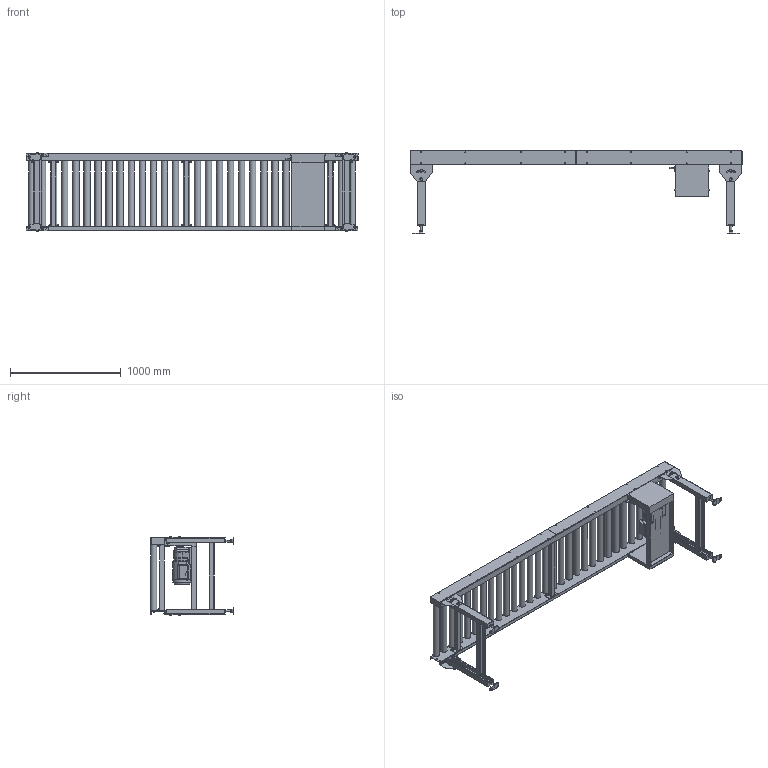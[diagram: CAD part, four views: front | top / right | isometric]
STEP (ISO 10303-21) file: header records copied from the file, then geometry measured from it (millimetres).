
FILE_DESCRIPTION( (''), '2;1');
FILE_NAME ('WEB-MCC3H-57-3-075-630-100-300-L-20S.stp','2025-09-17T16:22:38',(''),(''),'spGate 20.6.2 (****-****-****-****)','','');
FILE_SCHEMA (('AUTOMOTIVE_DESIGN'));
Length unit declared in the file: millimetre
Products named in the file (15): WEB-MCC3H-57-3-075-630-100-300-L-20S; TEMP_X_T-prt0; TEMP_X_T-prt1; TEMP_X_T-prt2; TEMP_X_T-prt3; TEMP_X_T-prt4; TEMP_X_T-prt5; TEMP_X_T-prt6; TEMP_X_T-prt7; TEMP_X_T-prt8; TEMP_X_T-prt9; TEMP_X_T-prt10; TEMP_X_T-prt11; TEMP_X_T-prt12; TEMP_X_T-prt13
Assembly tree (14 placements, depth 2):
  WEB-MCC3H-57-3-075-630-100-300-L-20S
    TEMP_X_T-prt0
    TEMP_X_T-prt1
    TEMP_X_T-prt2
    TEMP_X_T-prt3
    TEMP_X_T-prt4
    TEMP_X_T-prt5
    TEMP_X_T-prt6
    TEMP_X_T-prt7
    TEMP_X_T-prt8
    TEMP_X_T-prt9
    TEMP_X_T-prt10
    TEMP_X_T-prt11
    TEMP_X_T-prt12
    TEMP_X_T-prt13
Bounding box: 3002.4 x 750 x 714.4 mm (x, y, z)
Volume: 89834074.6 mm3; surface area: 8579250.4 mm2
Topology: 14 solids, 14 shells, 1766 faces, 4583 edges, 3040 vertices
Faces by surface type: plane 1364, cylinder 349, bspline 29, sphere 24
Full cylindrical faces by diameter (mm): 7 x1, 8 x3, 8.5 x4, 9.2 x4, 9.4 x24, 10 x30, 12 x35, 13 x12, 16 x42, 18.4 x16, 21 x18, 24 x8, 25 x4, 27 x1, 28 x1, 30 x2, 31 x1, 47 x30, 57 x30, 63 x1, 149.6 x1, 153 x1
Entity records: 92656 total; most frequent: CARTESIAN_POINT 11676, ORIENTED_EDGE 9118, DIRECTION 9116, COLOUR_RGB 6339, PRESENTATION_STYLE_ASSIGNMENT 6339, STYLED_ITEM 6339, EDGE_CURVE 4559, DRAUGHTING_PRE_DEFINED_CURVE_FONT 4559
